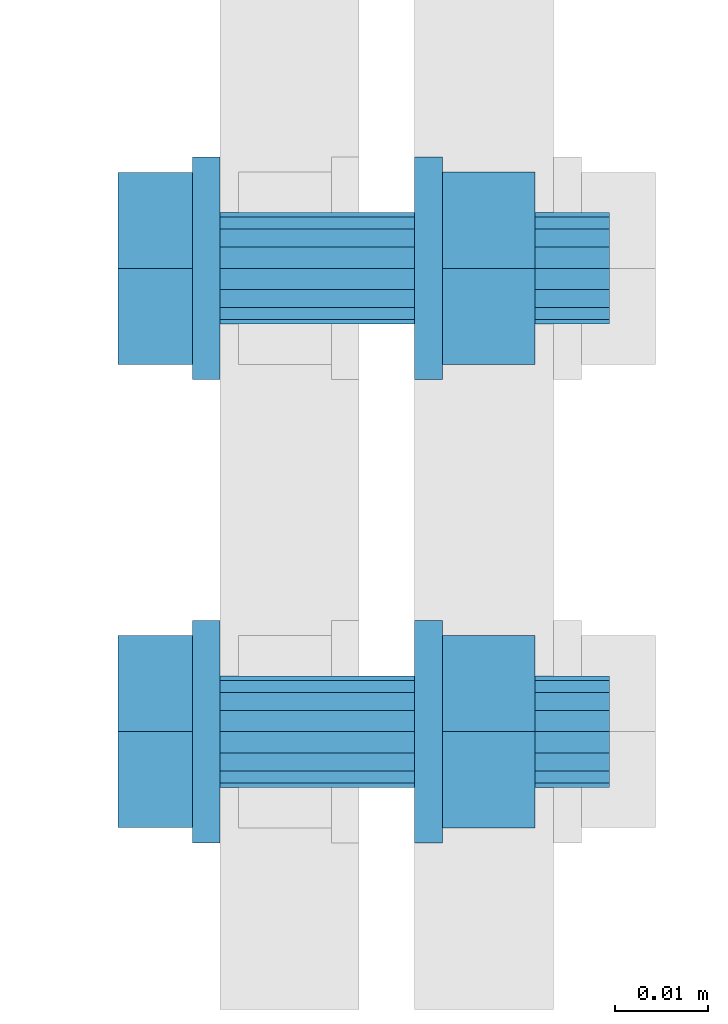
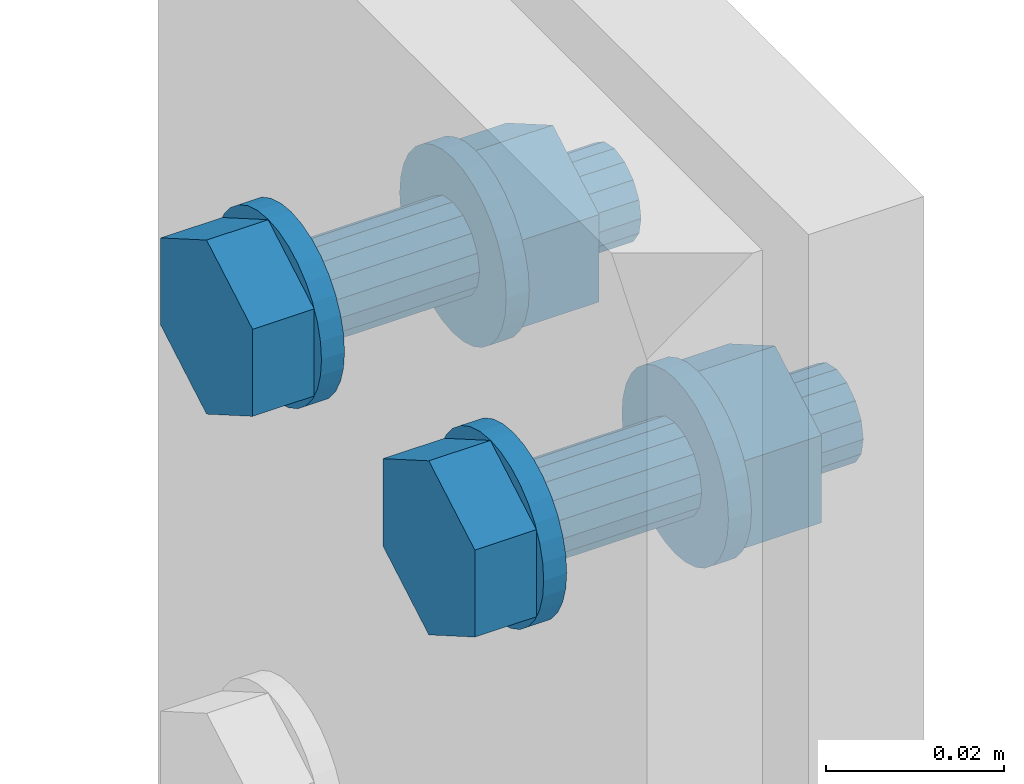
# One storey, part 4 of 13: 2 mechanical fasteners.
"""IFC4X3_ADD2 building model written with IfcOpenShell, lengths in millimetres."""

from ifc_helpers import new_model, entity, si_unit, converted_unit, derived_unit, direction, origin, place, context, project, spatial, faceted_brep, element, save


model = new_model("IFC4X3_ADD2")

# Units and contexts
model_context = context("Model", 3, precision=0.01, world=origin(), true_north=direction((6.123233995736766e-17, 1.0)))
plan_context = context("Plan", 3, precision=0.01, world=origin(), true_north=direction((6.123233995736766e-17, 1.0)))
ifc_project = project(units=[si_unit("LENGTHUNIT", "METRE", prefix="MILLI"), converted_unit("PLANEANGLEUNIT", "DEGREE", entity("IfcPlaneAngleMeasure", 0.017453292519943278), si_unit("PLANEANGLEUNIT", "RADIAN"), dimensions=[0, 0, 0, 0, 0, 0, 0]), si_unit("AREAUNIT", "SQUARE_METRE"), si_unit("VOLUMEUNIT", "CUBIC_METRE"), derived_unit("THERMALTRANSMITTANCEUNIT", [(si_unit("MASSUNIT", "GRAM", prefix="KILO"), 1), (si_unit("THERMODYNAMICTEMPERATUREUNIT", "KELVIN"), -1), (si_unit("TIMEUNIT", "SECOND"), -3)]), derived_unit("USERDEFINED", [(si_unit("MASSUNIT", "GRAM", prefix="KILO"), 1), (si_unit("THERMODYNAMICTEMPERATUREUNIT", "KELVIN"), -1), (si_unit("TIMEUNIT", "SECOND"), -2)]), derived_unit("THERMALRESISTANCEUNIT", [(si_unit("MASSUNIT", "GRAM", prefix="KILO"), -1), (si_unit("TIMEUNIT", "SECOND"), 3), (si_unit("THERMODYNAMICTEMPERATUREUNIT", "KELVIN"), 1)]), si_unit("MASSUNIT", "GRAM", prefix="KILO"), derived_unit("MOMENTOFINERTIAUNIT", [(si_unit("LENGTHUNIT", "METRE"), 4)]), derived_unit("LINEARFORCEUNIT", [(si_unit("MASSUNIT", "GRAM", prefix="KILO"), 1), (si_unit("TIMEUNIT", "SECOND"), -2)]), derived_unit("WARPINGCONSTANTUNIT", [(si_unit("LENGTHUNIT", "METRE"), 6)]), si_unit("PRESSUREUNIT", "PASCAL"), derived_unit("MASSDENSITYUNIT", [(si_unit("MASSUNIT", "GRAM", prefix="KILO"), 1), (si_unit("LENGTHUNIT", "METRE"), -3)]), derived_unit("MODULUSOFELASTICITYUNIT", [(si_unit("MASSUNIT", "GRAM", prefix="KILO"), 1), (si_unit("TIMEUNIT", "SECOND"), -2), (si_unit("LENGTHUNIT", "METRE"), -1)]), derived_unit("THERMALEXPANSIONCOEFFICIENTUNIT", [(si_unit("THERMODYNAMICTEMPERATUREUNIT", "KELVIN"), -1)]), derived_unit("VAPORPERMEABILITYUNIT", [(si_unit("LENGTHUNIT", "METRE"), -1), (si_unit("TIMEUNIT", "SECOND"), 1)]), derived_unit("USERDEFINED", [(si_unit("MASSUNIT", "GRAM", prefix="KILO"), 1), (si_unit("TIMEUNIT", "SECOND"), -3), (si_unit("LENGTHUNIT", "METRE"), 3), (si_unit("ELECTRICCURRENTUNIT", "AMPERE"), -2)]), derived_unit("SPECIFICHEATCAPACITYUNIT", [(si_unit("THERMODYNAMICTEMPERATUREUNIT", "KELVIN"), -1), (si_unit("TIMEUNIT", "SECOND"), -2), (si_unit("LENGTHUNIT", "METRE"), 2)]), derived_unit("THERMALCONDUCTANCEUNIT", [(si_unit("MASSUNIT", "GRAM", prefix="KILO"), 1), (si_unit("THERMODYNAMICTEMPERATUREUNIT", "KELVIN"), -1), (si_unit("TIMEUNIT", "SECOND"), -3), (si_unit("LENGTHUNIT", "METRE"), 1)])], contexts=[model_context, plan_context])

# Site, building, storey
site_placement = place(None, origin())
site = spatial("IfcSite", under=ifc_project, at=site_placement, Name="Default", CompositionType="ELEMENT")
building_placement = place(site_placement, origin())
building = spatial("IfcBuilding", under=site, at=building_placement, Name="Complex structure", CompositionType="ELEMENT")
storey_placement = place(building_placement, origin())
storey = spatial("IfcBuildingStorey", under=building, at=storey_placement, Name="Level 00", CompositionType="ELEMENT", Elevation=0.0)

# Mechanical fasteners
mechanical_fastener_1_placement = place(storey_placement, origin())
element("IfcMechanicalFastener", 1, at=mechanical_fastener_1_placement, inside=storey, ObjectType="Bolt#1", NominalDiameter=12.0, NominalLength=45.0, context=model_context, shape_type="Brep", body=[
    faceted_brep([(-9166.221550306, -1295.866703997, 2965.0), (-9163.221550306, -1295.866703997, 2965.0), (-9163.221550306, -1296.097280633, 2962.658916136), (-9166.221550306, -1296.097280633, 2962.658916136), (-9163.221550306, -1296.780149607, 2960.407798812), (-9166.221550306, -1296.780149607, 2960.407798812), (-9163.221550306, -1297.88906865, 2958.333157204), (-9166.221550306, -1297.88906865, 2958.333157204), (-9163.221550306, -1299.381422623, 2956.514718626), (-9166.221550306, -1299.381422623, 2956.514718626), (-9163.221550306, -1301.199861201, 2955.022364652), (-9166.221550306, -1301.199861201, 2955.022364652), (-9163.221550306, -1303.274502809, 2953.91344561), (-9166.221550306, -1303.274502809, 2953.91344561), (-9163.221550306, -1305.525620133, 2953.230576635), (-9166.221550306, -1305.525620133, 2953.230576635), (-9163.221550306, -1307.866703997, 2953.0), (-9166.221550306, -1307.866703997, 2953.0), (-9163.221550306, -1310.207787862, 2953.230576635), (-9166.221550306, -1310.207787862, 2953.230576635), (-9163.221550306, -1312.458905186, 2953.91344561), (-9166.221550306, -1312.458905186, 2953.91344561), (-9163.221550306, -1314.533546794, 2955.022364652), (-9166.221550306, -1314.533546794, 2955.022364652), (-9163.221550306, -1316.351985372, 2956.514718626), (-9166.221550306, -1316.351985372, 2956.514718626), (-9163.221550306, -1317.844339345, 2958.333157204), (-9166.221550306, -1317.844339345, 2958.333157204), (-9163.221550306, -1318.953258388, 2960.407798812), (-9166.221550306, -1318.953258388, 2960.407798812), (-9163.221550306, -1319.636127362, 2962.658916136), (-9166.221550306, -1319.636127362, 2962.658916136), (-9163.221550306, -1319.866703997, 2965.0), (-9166.221550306, -1319.866703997, 2965.0), (-9163.221550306, -1319.636127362, 2967.341083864), (-9166.221550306, -1319.636127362, 2967.341083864), (-9163.221550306, -1318.953258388, 2969.592201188), (-9166.221550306, -1318.953258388, 2969.592201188), (-9163.221550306, -1317.844339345, 2971.666842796), (-9166.221550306, -1317.844339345, 2971.666842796), (-9163.221550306, -1316.351985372, 2973.485281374), (-9166.221550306, -1316.351985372, 2973.485281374), (-9163.221550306, -1314.533546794, 2974.977635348), (-9166.221550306, -1314.533546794, 2974.977635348), (-9163.221550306, -1312.458905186, 2976.08655439), (-9166.221550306, -1312.458905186, 2976.08655439), (-9163.221550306, -1310.207787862, 2976.769423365), (-9166.221550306, -1310.207787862, 2976.769423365), (-9163.221550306, -1307.866703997, 2977.0), (-9166.221550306, -1307.866703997, 2977.0), (-9163.221550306, -1305.525620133, 2976.769423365), (-9166.221550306, -1305.525620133, 2976.769423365), (-9163.221550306, -1303.274502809, 2976.08655439), (-9166.221550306, -1303.274502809, 2976.08655439), (-9163.221550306, -1301.199861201, 2974.977635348), (-9166.221550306, -1301.199861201, 2974.977635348), (-9163.221550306, -1299.381422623, 2973.485281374), (-9166.221550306, -1299.381422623, 2973.485281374), (-9163.221550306, -1297.88906865, 2971.666842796), (-9166.221550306, -1297.88906865, 2971.666842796), (-9163.221550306, -1296.780149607, 2969.592201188), (-9166.221550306, -1296.780149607, 2969.592201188), (-9163.221550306, -1296.097280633, 2967.341083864), (-9166.221550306, -1296.097280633, 2967.341083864)], [[[0, 1, 2, 3]], [[3, 2, 4, 5]], [[5, 4, 6, 7]], [[7, 6, 8, 9]], [[9, 8, 10, 11]], [[11, 10, 12, 13]], [[13, 12, 14, 15]], [[15, 14, 16, 17]], [[17, 16, 18, 19]], [[19, 18, 20, 21]], [[21, 20, 22, 23]], [[23, 22, 24, 25]], [[25, 24, 26, 27]], [[27, 26, 28, 29]], [[29, 28, 30, 31]], [[31, 30, 32, 33]], [[33, 32, 34, 35]], [[35, 34, 36, 37]], [[37, 36, 38, 39]], [[39, 38, 40, 41]], [[41, 40, 42, 43]], [[43, 42, 44, 45]], [[45, 44, 46, 47]], [[47, 46, 48, 49]], [[49, 48, 50, 51]], [[51, 50, 52, 53]], [[53, 52, 54, 55]], [[55, 54, 56, 57]], [[57, 56, 58, 59]], [[59, 58, 60, 61]], [[61, 60, 62, 63]], [[63, 62, 1, 0]], [[0, 3, 5, 7, 9, 11, 13, 15, 17, 19, 21, 23, 25, 27, 29, 31, 33, 35, 37, 39, 41, 43, 45, 47, 49, 51, 53, 55, 57, 59, 61, 63]], [[1, 62, 60, 58, 56, 54, 52, 50, 48, 46, 44, 42, 40, 38, 36, 34, 32, 30, 28, 26, 24, 22, 20, 18, 16, 14, 12, 10, 8, 6, 4, 2]]]),
    faceted_brep([(-9166.221550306, -1318.2200377, 2959.0225), (-9174.221550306, -1318.2200377, 2959.0225), (-9174.221550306, -1307.866703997, 2953.045), (-9166.221550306, -1307.866703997, 2953.045), (-9174.221550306, -1297.513370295, 2959.0225), (-9166.221550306, -1297.513370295, 2959.0225), (-9174.221550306, -1297.513370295, 2970.9775), (-9166.221550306, -1297.513370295, 2970.9775), (-9174.221550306, -1307.866703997, 2976.955), (-9166.221550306, -1307.866703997, 2976.955), (-9174.221550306, -1318.2200377, 2970.9775), (-9166.221550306, -1318.2200377, 2970.9775)], [[[0, 1, 2, 3]], [[3, 2, 4, 5]], [[5, 4, 6, 7]], [[7, 6, 8, 9]], [[9, 8, 10, 11]], [[11, 10, 1, 0]], [[4, 2, 1, 10, 8, 6]], [[0, 3, 5, 7, 9, 11]]]),
    faceted_brep([(-9163.221550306, -1301.866703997, 2965.0), (-9142.221550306, -1301.866703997, 2965.0), (-9142.221550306, -1302.323426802, 2962.703899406), (-9163.221550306, -1302.323426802, 2962.703899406), (-9142.221550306, -1303.62406331, 2960.757359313), (-9163.221550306, -1303.62406331, 2960.757359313), (-9142.221550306, -1305.570603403, 2959.456722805), (-9163.221550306, -1305.570603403, 2959.456722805), (-9142.221550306, -1307.866703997, 2959.0), (-9163.221550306, -1307.866703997, 2959.0), (-9142.221550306, -1310.162804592, 2959.456722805), (-9163.221550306, -1310.162804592, 2959.456722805), (-9142.221550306, -1312.109344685, 2960.757359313), (-9163.221550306, -1312.109344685, 2960.757359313), (-9142.221550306, -1313.409981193, 2962.703899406), (-9163.221550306, -1313.409981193, 2962.703899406), (-9142.221550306, -1313.866703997, 2965.0), (-9163.221550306, -1313.866703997, 2965.0), (-9142.221550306, -1313.409981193, 2967.296100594), (-9163.221550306, -1313.409981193, 2967.296100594), (-9142.221550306, -1312.109344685, 2969.242640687), (-9163.221550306, -1312.109344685, 2969.242640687), (-9142.221550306, -1310.162804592, 2970.543277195), (-9163.221550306, -1310.162804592, 2970.543277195), (-9142.221550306, -1307.866703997, 2971.0), (-9163.221550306, -1307.866703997, 2971.0), (-9142.221550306, -1305.570603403, 2970.543277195), (-9163.221550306, -1305.570603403, 2970.543277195), (-9142.221550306, -1303.62406331, 2969.242640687), (-9163.221550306, -1303.62406331, 2969.242640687), (-9142.221550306, -1302.323426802, 2967.296100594), (-9163.221550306, -1302.323426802, 2967.296100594)], [[[0, 1, 2, 3]], [[3, 2, 4, 5]], [[5, 4, 6, 7]], [[7, 6, 8, 9]], [[9, 8, 10, 11]], [[11, 10, 12, 13]], [[13, 12, 14, 15]], [[15, 14, 16, 17]], [[17, 16, 18, 19]], [[19, 18, 20, 21]], [[21, 20, 22, 23]], [[23, 22, 24, 25]], [[25, 24, 26, 27]], [[27, 26, 28, 29]], [[29, 28, 30, 31]], [[31, 30, 1, 0]], [[0, 3, 5, 7, 9, 11, 13, 15, 17, 19, 21, 23, 25, 27, 29, 31]], [[1, 30, 28, 26, 24, 22, 20, 18, 16, 14, 12, 10, 8, 6, 4, 2]]]),
    faceted_brep([(-9142.221550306, -1295.866703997, 2965.0), (-9139.221550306, -1295.866703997, 2965.0), (-9139.221550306, -1296.097280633, 2962.658916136), (-9142.221550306, -1296.097280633, 2962.658916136), (-9139.221550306, -1296.780149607, 2960.407798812), (-9142.221550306, -1296.780149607, 2960.407798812), (-9139.221550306, -1297.88906865, 2958.333157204), (-9142.221550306, -1297.88906865, 2958.333157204), (-9139.221550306, -1299.381422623, 2956.514718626), (-9142.221550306, -1299.381422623, 2956.514718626), (-9139.221550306, -1301.199861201, 2955.022364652), (-9142.221550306, -1301.199861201, 2955.022364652), (-9139.221550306, -1303.274502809, 2953.91344561), (-9142.221550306, -1303.274502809, 2953.91344561), (-9139.221550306, -1305.525620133, 2953.230576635), (-9142.221550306, -1305.525620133, 2953.230576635), (-9139.221550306, -1307.866703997, 2953.0), (-9142.221550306, -1307.866703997, 2953.0), (-9139.221550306, -1310.207787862, 2953.230576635), (-9142.221550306, -1310.207787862, 2953.230576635), (-9139.221550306, -1312.458905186, 2953.91344561), (-9142.221550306, -1312.458905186, 2953.91344561), (-9139.221550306, -1314.533546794, 2955.022364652), (-9142.221550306, -1314.533546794, 2955.022364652), (-9139.221550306, -1316.351985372, 2956.514718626), (-9142.221550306, -1316.351985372, 2956.514718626), (-9139.221550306, -1317.844339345, 2958.333157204), (-9142.221550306, -1317.844339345, 2958.333157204), (-9139.221550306, -1318.953258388, 2960.407798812), (-9142.221550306, -1318.953258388, 2960.407798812), (-9139.221550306, -1319.636127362, 2962.658916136), (-9142.221550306, -1319.636127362, 2962.658916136), (-9139.221550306, -1319.866703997, 2965.0), (-9142.221550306, -1319.866703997, 2965.0), (-9139.221550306, -1319.636127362, 2967.341083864), (-9142.221550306, -1319.636127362, 2967.341083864), (-9139.221550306, -1318.953258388, 2969.592201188), (-9142.221550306, -1318.953258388, 2969.592201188), (-9139.221550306, -1317.844339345, 2971.666842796), (-9142.221550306, -1317.844339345, 2971.666842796), (-9139.221550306, -1316.351985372, 2973.485281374), (-9142.221550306, -1316.351985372, 2973.485281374), (-9139.221550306, -1314.533546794, 2974.977635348), (-9142.221550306, -1314.533546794, 2974.977635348), (-9139.221550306, -1312.458905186, 2976.08655439), (-9142.221550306, -1312.458905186, 2976.08655439), (-9139.221550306, -1310.207787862, 2976.769423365), (-9142.221550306, -1310.207787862, 2976.769423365), (-9139.221550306, -1307.866703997, 2977.0), (-9142.221550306, -1307.866703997, 2977.0), (-9139.221550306, -1305.525620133, 2976.769423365), (-9142.221550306, -1305.525620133, 2976.769423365), (-9139.221550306, -1303.274502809, 2976.08655439), (-9142.221550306, -1303.274502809, 2976.08655439), (-9139.221550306, -1301.199861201, 2974.977635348), (-9142.221550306, -1301.199861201, 2974.977635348), (-9139.221550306, -1299.381422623, 2973.485281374), (-9142.221550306, -1299.381422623, 2973.485281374), (-9139.221550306, -1297.88906865, 2971.666842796), (-9142.221550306, -1297.88906865, 2971.666842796), (-9139.221550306, -1296.780149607, 2969.592201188), (-9142.221550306, -1296.780149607, 2969.592201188), (-9139.221550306, -1296.097280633, 2967.341083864), (-9142.221550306, -1296.097280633, 2967.341083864)], [[[0, 1, 2, 3]], [[3, 2, 4, 5]], [[5, 4, 6, 7]], [[7, 6, 8, 9]], [[9, 8, 10, 11]], [[11, 10, 12, 13]], [[13, 12, 14, 15]], [[15, 14, 16, 17]], [[17, 16, 18, 19]], [[19, 18, 20, 21]], [[21, 20, 22, 23]], [[23, 22, 24, 25]], [[25, 24, 26, 27]], [[27, 26, 28, 29]], [[29, 28, 30, 31]], [[31, 30, 32, 33]], [[33, 32, 34, 35]], [[35, 34, 36, 37]], [[37, 36, 38, 39]], [[39, 38, 40, 41]], [[41, 40, 42, 43]], [[43, 42, 44, 45]], [[45, 44, 46, 47]], [[47, 46, 48, 49]], [[49, 48, 50, 51]], [[51, 50, 52, 53]], [[53, 52, 54, 55]], [[55, 54, 56, 57]], [[57, 56, 58, 59]], [[59, 58, 60, 61]], [[61, 60, 62, 63]], [[63, 62, 1, 0]], [[0, 3, 5, 7, 9, 11, 13, 15, 17, 19, 21, 23, 25, 27, 29, 31, 33, 35, 37, 39, 41, 43, 45, 47, 49, 51, 53, 55, 57, 59, 61, 63]], [[1, 62, 60, 58, 56, 54, 52, 50, 48, 46, 44, 42, 40, 38, 36, 34, 32, 30, 28, 26, 24, 22, 20, 18, 16, 14, 12, 10, 8, 6, 4, 2]]]),
    faceted_brep([(-9129.221550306, -1318.259008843, 2959.0), (-9139.221550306, -1318.259008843, 2959.0), (-9139.221550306, -1307.866703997, 2953.0), (-9129.221550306, -1307.866703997, 2953.0), (-9139.221550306, -1297.474399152, 2959.0), (-9129.221550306, -1297.474399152, 2959.0), (-9139.221550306, -1297.474399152, 2971.0), (-9129.221550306, -1297.474399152, 2971.0), (-9139.221550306, -1307.866703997, 2977.0), (-9129.221550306, -1307.866703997, 2977.0), (-9139.221550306, -1318.259008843, 2971.0), (-9129.221550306, -1318.259008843, 2971.0)], [[[0, 1, 2, 3]], [[3, 2, 4, 5]], [[5, 4, 6, 7]], [[7, 6, 8, 9]], [[9, 8, 10, 11]], [[11, 10, 1, 0]], [[4, 2, 1, 10, 8, 6]], [[0, 3, 5, 7, 9, 11]]]),
    faceted_brep([(-9129.221550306, -1301.866703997, 2965.0), (-9121.221550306, -1301.866703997, 2965.0), (-9121.221550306, -1302.323426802, 2962.703899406), (-9129.221550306, -1302.323426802, 2962.703899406), (-9121.221550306, -1303.62406331, 2960.757359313), (-9129.221550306, -1303.62406331, 2960.757359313), (-9121.221550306, -1305.570603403, 2959.456722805), (-9129.221550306, -1305.570603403, 2959.456722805), (-9121.221550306, -1307.866703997, 2959.0), (-9129.221550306, -1307.866703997, 2959.0), (-9121.221550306, -1310.162804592, 2959.456722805), (-9129.221550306, -1310.162804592, 2959.456722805), (-9121.221550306, -1312.109344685, 2960.757359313), (-9129.221550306, -1312.109344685, 2960.757359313), (-9121.221550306, -1313.409981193, 2962.703899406), (-9129.221550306, -1313.409981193, 2962.703899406), (-9121.221550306, -1313.866703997, 2965.0), (-9129.221550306, -1313.866703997, 2965.0), (-9121.221550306, -1313.409981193, 2967.296100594), (-9129.221550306, -1313.409981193, 2967.296100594), (-9121.221550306, -1312.109344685, 2969.242640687), (-9129.221550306, -1312.109344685, 2969.242640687), (-9121.221550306, -1310.162804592, 2970.543277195), (-9129.221550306, -1310.162804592, 2970.543277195), (-9121.221550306, -1307.866703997, 2971.0), (-9129.221550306, -1307.866703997, 2971.0), (-9121.221550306, -1305.570603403, 2970.543277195), (-9129.221550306, -1305.570603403, 2970.543277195), (-9121.221550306, -1303.62406331, 2969.242640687), (-9129.221550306, -1303.62406331, 2969.242640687), (-9121.221550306, -1302.323426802, 2967.296100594), (-9129.221550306, -1302.323426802, 2967.296100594)], [[[0, 1, 2, 3]], [[3, 2, 4, 5]], [[5, 4, 6, 7]], [[7, 6, 8, 9]], [[9, 8, 10, 11]], [[11, 10, 12, 13]], [[13, 12, 14, 15]], [[15, 14, 16, 17]], [[17, 16, 18, 19]], [[19, 18, 20, 21]], [[21, 20, 22, 23]], [[23, 22, 24, 25]], [[25, 24, 26, 27]], [[27, 26, 28, 29]], [[29, 28, 30, 31]], [[31, 30, 1, 0]], [[0, 3, 5, 7, 9, 11, 13, 15, 17, 19, 21, 23, 25, 27, 29, 31]], [[1, 30, 28, 26, 24, 22, 20, 18, 16, 14, 12, 10, 8, 6, 4, 2]]]),
])
mechanical_fastener_2_placement = place(storey_placement, origin())
element("IfcMechanicalFastener", 2, at=mechanical_fastener_2_placement, inside=storey, ObjectType="Bolt#2", NominalDiameter=12.0, NominalLength=45.0, context=model_context, shape_type="Brep", body=[
    faceted_brep([(-9166.221550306, -1269.866703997, 2965.0), (-9163.221550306, -1269.866703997, 2965.0), (-9163.221550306, -1269.636127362, 2967.341083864), (-9166.221550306, -1269.636127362, 2967.341083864), (-9163.221550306, -1268.953258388, 2969.592201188), (-9166.221550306, -1268.953258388, 2969.592201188), (-9163.221550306, -1267.844339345, 2971.666842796), (-9166.221550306, -1267.844339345, 2971.666842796), (-9163.221550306, -1266.351985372, 2973.485281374), (-9166.221550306, -1266.351985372, 2973.485281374), (-9163.221550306, -1264.533546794, 2974.977635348), (-9166.221550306, -1264.533546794, 2974.977635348), (-9163.221550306, -1262.458905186, 2976.08655439), (-9166.221550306, -1262.458905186, 2976.08655439), (-9163.221550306, -1260.207787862, 2976.769423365), (-9166.221550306, -1260.207787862, 2976.769423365), (-9163.221550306, -1257.866703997, 2977.0), (-9166.221550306, -1257.866703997, 2977.0), (-9163.221550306, -1255.525620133, 2976.769423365), (-9166.221550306, -1255.525620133, 2976.769423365), (-9163.221550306, -1253.274502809, 2976.08655439), (-9166.221550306, -1253.274502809, 2976.08655439), (-9163.221550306, -1251.199861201, 2974.977635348), (-9166.221550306, -1251.199861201, 2974.977635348), (-9163.221550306, -1249.381422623, 2973.485281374), (-9166.221550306, -1249.381422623, 2973.485281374), (-9163.221550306, -1247.88906865, 2971.666842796), (-9166.221550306, -1247.88906865, 2971.666842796), (-9163.221550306, -1246.780149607, 2969.592201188), (-9166.221550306, -1246.780149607, 2969.592201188), (-9163.221550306, -1246.097280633, 2967.341083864), (-9166.221550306, -1246.097280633, 2967.341083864), (-9163.221550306, -1245.866703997, 2965.0), (-9166.221550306, -1245.866703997, 2965.0), (-9163.221550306, -1246.097280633, 2962.658916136), (-9166.221550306, -1246.097280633, 2962.658916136), (-9163.221550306, -1246.780149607, 2960.407798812), (-9166.221550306, -1246.780149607, 2960.407798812), (-9163.221550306, -1247.88906865, 2958.333157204), (-9166.221550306, -1247.88906865, 2958.333157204), (-9163.221550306, -1249.381422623, 2956.514718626), (-9166.221550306, -1249.381422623, 2956.514718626), (-9163.221550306, -1251.199861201, 2955.022364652), (-9166.221550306, -1251.199861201, 2955.022364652), (-9163.221550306, -1253.274502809, 2953.91344561), (-9166.221550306, -1253.274502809, 2953.91344561), (-9163.221550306, -1255.525620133, 2953.230576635), (-9166.221550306, -1255.525620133, 2953.230576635), (-9163.221550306, -1257.866703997, 2953.0), (-9166.221550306, -1257.866703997, 2953.0), (-9163.221550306, -1260.207787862, 2953.230576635), (-9166.221550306, -1260.207787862, 2953.230576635), (-9163.221550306, -1262.458905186, 2953.91344561), (-9166.221550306, -1262.458905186, 2953.91344561), (-9163.221550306, -1264.533546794, 2955.022364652), (-9166.221550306, -1264.533546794, 2955.022364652), (-9163.221550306, -1266.351985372, 2956.514718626), (-9166.221550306, -1266.351985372, 2956.514718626), (-9163.221550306, -1267.844339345, 2958.333157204), (-9166.221550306, -1267.844339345, 2958.333157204), (-9163.221550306, -1268.953258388, 2960.407798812), (-9166.221550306, -1268.953258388, 2960.407798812), (-9163.221550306, -1269.636127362, 2962.658916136), (-9166.221550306, -1269.636127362, 2962.658916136)], [[[0, 1, 2, 3]], [[3, 2, 4, 5]], [[5, 4, 6, 7]], [[7, 6, 8, 9]], [[9, 8, 10, 11]], [[11, 10, 12, 13]], [[13, 12, 14, 15]], [[15, 14, 16, 17]], [[17, 16, 18, 19]], [[19, 18, 20, 21]], [[21, 20, 22, 23]], [[23, 22, 24, 25]], [[25, 24, 26, 27]], [[27, 26, 28, 29]], [[29, 28, 30, 31]], [[31, 30, 32, 33]], [[33, 32, 34, 35]], [[35, 34, 36, 37]], [[37, 36, 38, 39]], [[39, 38, 40, 41]], [[41, 40, 42, 43]], [[43, 42, 44, 45]], [[45, 44, 46, 47]], [[47, 46, 48, 49]], [[49, 48, 50, 51]], [[51, 50, 52, 53]], [[53, 52, 54, 55]], [[55, 54, 56, 57]], [[57, 56, 58, 59]], [[59, 58, 60, 61]], [[61, 60, 62, 63]], [[63, 62, 1, 0]], [[0, 3, 5, 7, 9, 11, 13, 15, 17, 19, 21, 23, 25, 27, 29, 31, 33, 35, 37, 39, 41, 43, 45, 47, 49, 51, 53, 55, 57, 59, 61, 63]], [[1, 62, 60, 58, 56, 54, 52, 50, 48, 46, 44, 42, 40, 38, 36, 34, 32, 30, 28, 26, 24, 22, 20, 18, 16, 14, 12, 10, 8, 6, 4, 2]]]),
    faceted_brep([(-9166.221550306, -1247.513370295, 2970.9775), (-9174.221550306, -1247.513370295, 2970.9775), (-9174.221550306, -1257.866703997, 2976.955), (-9166.221550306, -1257.866703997, 2976.955), (-9174.221550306, -1268.2200377, 2970.9775), (-9166.221550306, -1268.2200377, 2970.9775), (-9174.221550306, -1268.2200377, 2959.0225), (-9166.221550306, -1268.2200377, 2959.0225), (-9174.221550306, -1257.866703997, 2953.045), (-9166.221550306, -1257.866703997, 2953.045), (-9174.221550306, -1247.513370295, 2959.0225), (-9166.221550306, -1247.513370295, 2959.0225)], [[[0, 1, 2, 3]], [[3, 2, 4, 5]], [[5, 4, 6, 7]], [[7, 6, 8, 9]], [[9, 8, 10, 11]], [[11, 10, 1, 0]], [[4, 2, 1, 10, 8, 6]], [[0, 3, 5, 7, 9, 11]]]),
    faceted_brep([(-9163.221550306, -1263.866703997, 2965.0), (-9142.221550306, -1263.866703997, 2965.0), (-9142.221550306, -1263.409981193, 2967.296100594), (-9163.221550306, -1263.409981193, 2967.296100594), (-9142.221550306, -1262.109344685, 2969.242640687), (-9163.221550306, -1262.109344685, 2969.242640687), (-9142.221550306, -1260.162804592, 2970.543277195), (-9163.221550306, -1260.162804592, 2970.543277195), (-9142.221550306, -1257.866703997, 2971.0), (-9163.221550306, -1257.866703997, 2971.0), (-9142.221550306, -1255.570603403, 2970.543277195), (-9163.221550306, -1255.570603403, 2970.543277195), (-9142.221550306, -1253.62406331, 2969.242640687), (-9163.221550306, -1253.62406331, 2969.242640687), (-9142.221550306, -1252.323426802, 2967.296100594), (-9163.221550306, -1252.323426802, 2967.296100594), (-9142.221550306, -1251.866703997, 2965.0), (-9163.221550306, -1251.866703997, 2965.0), (-9142.221550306, -1252.323426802, 2962.703899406), (-9163.221550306, -1252.323426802, 2962.703899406), (-9142.221550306, -1253.62406331, 2960.757359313), (-9163.221550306, -1253.62406331, 2960.757359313), (-9142.221550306, -1255.570603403, 2959.456722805), (-9163.221550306, -1255.570603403, 2959.456722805), (-9142.221550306, -1257.866703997, 2959.0), (-9163.221550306, -1257.866703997, 2959.0), (-9142.221550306, -1260.162804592, 2959.456722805), (-9163.221550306, -1260.162804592, 2959.456722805), (-9142.221550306, -1262.109344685, 2960.757359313), (-9163.221550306, -1262.109344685, 2960.757359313), (-9142.221550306, -1263.409981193, 2962.703899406), (-9163.221550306, -1263.409981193, 2962.703899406)], [[[0, 1, 2, 3]], [[3, 2, 4, 5]], [[5, 4, 6, 7]], [[7, 6, 8, 9]], [[9, 8, 10, 11]], [[11, 10, 12, 13]], [[13, 12, 14, 15]], [[15, 14, 16, 17]], [[17, 16, 18, 19]], [[19, 18, 20, 21]], [[21, 20, 22, 23]], [[23, 22, 24, 25]], [[25, 24, 26, 27]], [[27, 26, 28, 29]], [[29, 28, 30, 31]], [[31, 30, 1, 0]], [[0, 3, 5, 7, 9, 11, 13, 15, 17, 19, 21, 23, 25, 27, 29, 31]], [[1, 30, 28, 26, 24, 22, 20, 18, 16, 14, 12, 10, 8, 6, 4, 2]]]),
    faceted_brep([(-9142.221550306, -1269.866703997, 2965.0), (-9139.221550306, -1269.866703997, 2965.0), (-9139.221550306, -1269.636127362, 2967.341083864), (-9142.221550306, -1269.636127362, 2967.341083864), (-9139.221550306, -1268.953258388, 2969.592201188), (-9142.221550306, -1268.953258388, 2969.592201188), (-9139.221550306, -1267.844339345, 2971.666842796), (-9142.221550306, -1267.844339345, 2971.666842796), (-9139.221550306, -1266.351985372, 2973.485281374), (-9142.221550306, -1266.351985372, 2973.485281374), (-9139.221550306, -1264.533546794, 2974.977635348), (-9142.221550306, -1264.533546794, 2974.977635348), (-9139.221550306, -1262.458905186, 2976.08655439), (-9142.221550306, -1262.458905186, 2976.08655439), (-9139.221550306, -1260.207787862, 2976.769423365), (-9142.221550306, -1260.207787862, 2976.769423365), (-9139.221550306, -1257.866703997, 2977.0), (-9142.221550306, -1257.866703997, 2977.0), (-9139.221550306, -1255.525620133, 2976.769423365), (-9142.221550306, -1255.525620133, 2976.769423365), (-9139.221550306, -1253.274502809, 2976.08655439), (-9142.221550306, -1253.274502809, 2976.08655439), (-9139.221550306, -1251.199861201, 2974.977635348), (-9142.221550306, -1251.199861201, 2974.977635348), (-9139.221550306, -1249.381422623, 2973.485281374), (-9142.221550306, -1249.381422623, 2973.485281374), (-9139.221550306, -1247.88906865, 2971.666842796), (-9142.221550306, -1247.88906865, 2971.666842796), (-9139.221550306, -1246.780149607, 2969.592201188), (-9142.221550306, -1246.780149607, 2969.592201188), (-9139.221550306, -1246.097280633, 2967.341083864), (-9142.221550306, -1246.097280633, 2967.341083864), (-9139.221550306, -1245.866703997, 2965.0), (-9142.221550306, -1245.866703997, 2965.0), (-9139.221550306, -1246.097280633, 2962.658916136), (-9142.221550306, -1246.097280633, 2962.658916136), (-9139.221550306, -1246.780149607, 2960.407798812), (-9142.221550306, -1246.780149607, 2960.407798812), (-9139.221550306, -1247.88906865, 2958.333157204), (-9142.221550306, -1247.88906865, 2958.333157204), (-9139.221550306, -1249.381422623, 2956.514718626), (-9142.221550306, -1249.381422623, 2956.514718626), (-9139.221550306, -1251.199861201, 2955.022364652), (-9142.221550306, -1251.199861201, 2955.022364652), (-9139.221550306, -1253.274502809, 2953.91344561), (-9142.221550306, -1253.274502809, 2953.91344561), (-9139.221550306, -1255.525620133, 2953.230576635), (-9142.221550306, -1255.525620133, 2953.230576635), (-9139.221550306, -1257.866703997, 2953.0), (-9142.221550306, -1257.866703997, 2953.0), (-9139.221550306, -1260.207787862, 2953.230576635), (-9142.221550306, -1260.207787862, 2953.230576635), (-9139.221550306, -1262.458905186, 2953.91344561), (-9142.221550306, -1262.458905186, 2953.91344561), (-9139.221550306, -1264.533546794, 2955.022364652), (-9142.221550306, -1264.533546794, 2955.022364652), (-9139.221550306, -1266.351985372, 2956.514718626), (-9142.221550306, -1266.351985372, 2956.514718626), (-9139.221550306, -1267.844339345, 2958.333157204), (-9142.221550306, -1267.844339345, 2958.333157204), (-9139.221550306, -1268.953258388, 2960.407798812), (-9142.221550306, -1268.953258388, 2960.407798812), (-9139.221550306, -1269.636127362, 2962.658916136), (-9142.221550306, -1269.636127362, 2962.658916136)], [[[0, 1, 2, 3]], [[3, 2, 4, 5]], [[5, 4, 6, 7]], [[7, 6, 8, 9]], [[9, 8, 10, 11]], [[11, 10, 12, 13]], [[13, 12, 14, 15]], [[15, 14, 16, 17]], [[17, 16, 18, 19]], [[19, 18, 20, 21]], [[21, 20, 22, 23]], [[23, 22, 24, 25]], [[25, 24, 26, 27]], [[27, 26, 28, 29]], [[29, 28, 30, 31]], [[31, 30, 32, 33]], [[33, 32, 34, 35]], [[35, 34, 36, 37]], [[37, 36, 38, 39]], [[39, 38, 40, 41]], [[41, 40, 42, 43]], [[43, 42, 44, 45]], [[45, 44, 46, 47]], [[47, 46, 48, 49]], [[49, 48, 50, 51]], [[51, 50, 52, 53]], [[53, 52, 54, 55]], [[55, 54, 56, 57]], [[57, 56, 58, 59]], [[59, 58, 60, 61]], [[61, 60, 62, 63]], [[63, 62, 1, 0]], [[0, 3, 5, 7, 9, 11, 13, 15, 17, 19, 21, 23, 25, 27, 29, 31, 33, 35, 37, 39, 41, 43, 45, 47, 49, 51, 53, 55, 57, 59, 61, 63]], [[1, 62, 60, 58, 56, 54, 52, 50, 48, 46, 44, 42, 40, 38, 36, 34, 32, 30, 28, 26, 24, 22, 20, 18, 16, 14, 12, 10, 8, 6, 4, 2]]]),
    faceted_brep([(-9129.221550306, -1247.474399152, 2971.0), (-9139.221550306, -1247.474399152, 2971.0), (-9139.221550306, -1257.866703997, 2977.0), (-9129.221550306, -1257.866703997, 2977.0), (-9139.221550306, -1268.259008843, 2971.0), (-9129.221550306, -1268.259008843, 2971.0), (-9139.221550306, -1268.259008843, 2959.0), (-9129.221550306, -1268.259008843, 2959.0), (-9139.221550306, -1257.866703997, 2953.0), (-9129.221550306, -1257.866703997, 2953.0), (-9139.221550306, -1247.474399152, 2959.0), (-9129.221550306, -1247.474399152, 2959.0)], [[[0, 1, 2, 3]], [[3, 2, 4, 5]], [[5, 4, 6, 7]], [[7, 6, 8, 9]], [[9, 8, 10, 11]], [[11, 10, 1, 0]], [[4, 2, 1, 10, 8, 6]], [[0, 3, 5, 7, 9, 11]]]),
    faceted_brep([(-9129.221550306, -1263.866703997, 2965.0), (-9121.221550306, -1263.866703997, 2965.0), (-9121.221550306, -1263.409981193, 2967.296100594), (-9129.221550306, -1263.409981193, 2967.296100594), (-9121.221550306, -1262.109344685, 2969.242640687), (-9129.221550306, -1262.109344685, 2969.242640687), (-9121.221550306, -1260.162804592, 2970.543277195), (-9129.221550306, -1260.162804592, 2970.543277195), (-9121.221550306, -1257.866703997, 2971.0), (-9129.221550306, -1257.866703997, 2971.0), (-9121.221550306, -1255.570603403, 2970.543277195), (-9129.221550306, -1255.570603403, 2970.543277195), (-9121.221550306, -1253.62406331, 2969.242640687), (-9129.221550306, -1253.62406331, 2969.242640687), (-9121.221550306, -1252.323426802, 2967.296100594), (-9129.221550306, -1252.323426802, 2967.296100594), (-9121.221550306, -1251.866703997, 2965.0), (-9129.221550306, -1251.866703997, 2965.0), (-9121.221550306, -1252.323426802, 2962.703899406), (-9129.221550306, -1252.323426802, 2962.703899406), (-9121.221550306, -1253.62406331, 2960.757359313), (-9129.221550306, -1253.62406331, 2960.757359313), (-9121.221550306, -1255.570603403, 2959.456722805), (-9129.221550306, -1255.570603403, 2959.456722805), (-9121.221550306, -1257.866703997, 2959.0), (-9129.221550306, -1257.866703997, 2959.0), (-9121.221550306, -1260.162804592, 2959.456722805), (-9129.221550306, -1260.162804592, 2959.456722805), (-9121.221550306, -1262.109344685, 2960.757359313), (-9129.221550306, -1262.109344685, 2960.757359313), (-9121.221550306, -1263.409981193, 2962.703899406), (-9129.221550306, -1263.409981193, 2962.703899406)], [[[0, 1, 2, 3]], [[3, 2, 4, 5]], [[5, 4, 6, 7]], [[7, 6, 8, 9]], [[9, 8, 10, 11]], [[11, 10, 12, 13]], [[13, 12, 14, 15]], [[15, 14, 16, 17]], [[17, 16, 18, 19]], [[19, 18, 20, 21]], [[21, 20, 22, 23]], [[23, 22, 24, 25]], [[25, 24, 26, 27]], [[27, 26, 28, 29]], [[29, 28, 30, 31]], [[31, 30, 1, 0]], [[0, 3, 5, 7, 9, 11, 13, 15, 17, 19, 21, 23, 25, 27, 29, 31]], [[1, 30, 28, 26, 24, 22, 20, 18, 16, 14, 12, 10, 8, 6, 4, 2]]]),
])

save(model, "model.ifc")
